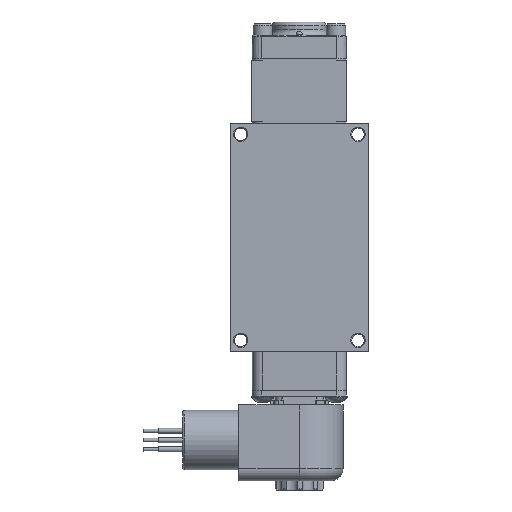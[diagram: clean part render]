
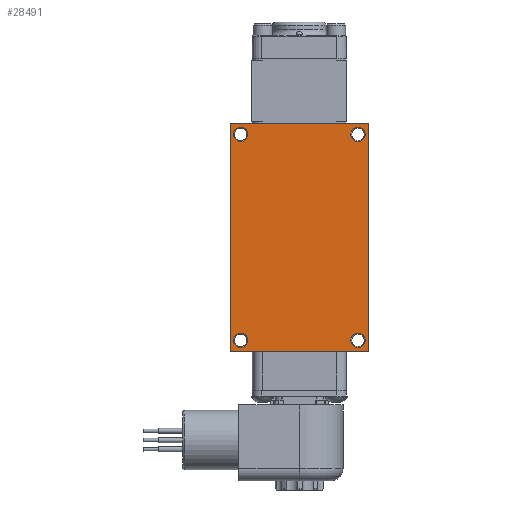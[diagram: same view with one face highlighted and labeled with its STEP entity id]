
A CAD part, front view. The second image highlights one B-rep face of the part: STEP entity #28491.
In plain terms, the highlighted planar face has unit normal (0, -1, 0).
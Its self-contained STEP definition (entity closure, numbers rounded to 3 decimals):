
#1057=FACE_BOUND('',#4954,.T.);
#1058=FACE_BOUND('',#4955,.T.);
#1059=FACE_BOUND('',#4956,.T.);
#1060=FACE_BOUND('',#4957,.T.);
#1749=PLANE('',#31351);
#3170=FACE_OUTER_BOUND('',#4953,.T.);
#4953=EDGE_LOOP('',(#23067,#23068,#23069,#23070));
#4954=EDGE_LOOP('',(#23071));
#4955=EDGE_LOOP('',(#23072));
#4956=EDGE_LOOP('',(#23073));
#4957=EDGE_LOOP('',(#23074));
#6674=CIRCLE('',#31340,0.296);
#6676=CIRCLE('',#31344,0.296);
#6678=CIRCLE('',#31348,0.296);
#6680=CIRCLE('',#31352,0.296);
#8289=LINE('',#49022,#10305);
#8290=LINE('',#49024,#10306);
#8291=LINE('',#49026,#10307);
#8292=LINE('',#49027,#10308);
#10305=VECTOR('',#38077,1.);
#10306=VECTOR('',#38078,1.);
#10307=VECTOR('',#38079,1.);
#10308=VECTOR('',#38080,1.);
#12772=VERTEX_POINT('',#48996);
#12774=VERTEX_POINT('',#49004);
#12776=VERTEX_POINT('',#49012);
#12778=VERTEX_POINT('',#49020);
#12779=VERTEX_POINT('',#49021);
#12780=VERTEX_POINT('',#49023);
#12781=VERTEX_POINT('',#49025);
#12782=VERTEX_POINT('',#49028);
#16334=EDGE_CURVE('',#12772,#12772,#6674,.T.);
#16338=EDGE_CURVE('',#12774,#12774,#6676,.T.);
#16342=EDGE_CURVE('',#12776,#12776,#6678,.T.);
#16346=EDGE_CURVE('',#12778,#12779,#8289,.T.);
#16347=EDGE_CURVE('',#12780,#12778,#8290,.T.);
#16348=EDGE_CURVE('',#12781,#12780,#8291,.T.);
#16349=EDGE_CURVE('',#12779,#12781,#8292,.T.);
#16350=EDGE_CURVE('',#12782,#12782,#6680,.T.);
#23067=ORIENTED_EDGE('',*,*,#16346,.F.);
#23068=ORIENTED_EDGE('',*,*,#16347,.F.);
#23069=ORIENTED_EDGE('',*,*,#16348,.F.);
#23070=ORIENTED_EDGE('',*,*,#16349,.F.);
#23071=ORIENTED_EDGE('',*,*,#16342,.F.);
#23072=ORIENTED_EDGE('',*,*,#16334,.F.);
#23073=ORIENTED_EDGE('',*,*,#16338,.F.);
#23074=ORIENTED_EDGE('',*,*,#16350,.F.);
#28491=ADVANCED_FACE('',(#3170,#1057,#1058,#1059,#1060),#1749,.F.);
#31340=AXIS2_PLACEMENT_3D('',#48997,#38047,#38048);
#31344=AXIS2_PLACEMENT_3D('',#49005,#38057,#38058);
#31348=AXIS2_PLACEMENT_3D('',#49013,#38067,#38068);
#31351=AXIS2_PLACEMENT_3D('',#49019,#38075,#38076);
#31352=AXIS2_PLACEMENT_3D('',#49029,#38081,#38082);
#38047=DIRECTION('center_axis',(0.,-1.,0.));
#38048=DIRECTION('ref_axis',(1.,0.,0.));
#38057=DIRECTION('center_axis',(0.,-1.,0.));
#38058=DIRECTION('ref_axis',(1.,0.,0.));
#38067=DIRECTION('center_axis',(0.,-1.,0.));
#38068=DIRECTION('ref_axis',(1.,0.,0.));
#38075=DIRECTION('center_axis',(0.,1.,0.));
#38076=DIRECTION('ref_axis',(0.,0.,1.));
#38077=DIRECTION('',(0.,0.,-1.));
#38078=DIRECTION('',(1.,0.,0.));
#38079=DIRECTION('',(0.,0.,1.));
#38080=DIRECTION('',(-1.,0.,0.));
#38081=DIRECTION('center_axis',(0.,-1.,0.));
#38082=DIRECTION('ref_axis',(1.,0.,0.));
#48996=CARTESIAN_POINT('',(2.125,-1.636,-4.247));
#48997=CARTESIAN_POINT('Origin',(2.421,-1.636,-4.247));
#49004=CARTESIAN_POINT('',(-2.717,-1.636,-4.247));
#49005=CARTESIAN_POINT('Origin',(-2.421,-1.636,-4.247));
#49012=CARTESIAN_POINT('',(-2.717,-1.636,4.247));
#49013=CARTESIAN_POINT('Origin',(-2.421,-1.636,4.247));
#49019=CARTESIAN_POINT('Origin',(0.,-1.636,0.));
#49020=CARTESIAN_POINT('',(2.858,-1.636,4.71));
#49021=CARTESIAN_POINT('',(2.858,-1.636,-4.71));
#49022=CARTESIAN_POINT('',(2.858,-1.636,-4.71));
#49023=CARTESIAN_POINT('',(-2.858,-1.636,4.71));
#49024=CARTESIAN_POINT('',(2.858,-1.636,4.71));
#49025=CARTESIAN_POINT('',(-2.858,-1.636,-4.71));
#49026=CARTESIAN_POINT('',(-2.858,-1.636,4.71));
#49027=CARTESIAN_POINT('',(-2.858,-1.636,-4.71));
#49028=CARTESIAN_POINT('',(2.125,-1.636,4.247));
#49029=CARTESIAN_POINT('Origin',(2.421,-1.636,4.247));
